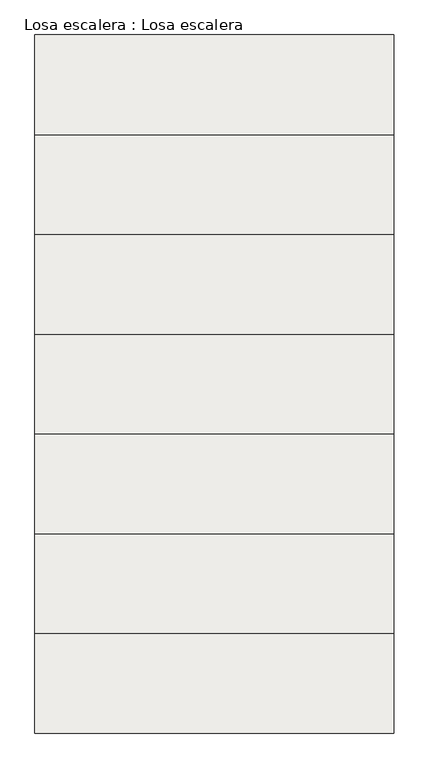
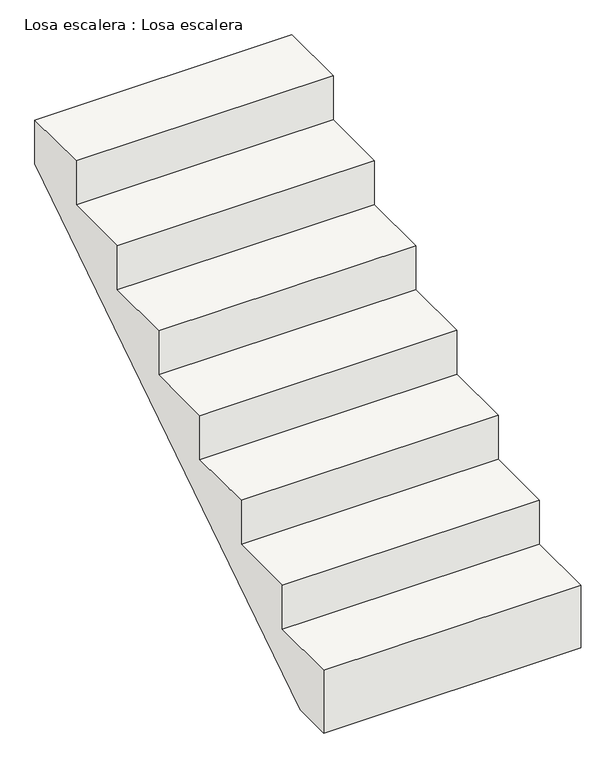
"""IFC4 building model written with IfcOpenShell, lengths in millimetres: slab geometry, Losa escalera : Losa escalera."""

from ifc_helpers import new_model, si_unit, frame, origin, place, context, project, spatial, polyline, outline, extrude, source, transform, mapped, element, save


def losa_escalera_losa_escalera_d81f02f8(model_context):
    return source(origin(), model_context, "Body", "SweptSolid", [
        extrude(outline(polyline([(7644.0656057, 1309.8801816), (5811.8108029, 120.0), (5650.1249817, 120.0), (5650.1249817, 385.0), (5935.0, 385.0), (5935.0, 570.0), (6219.8750183, 570.0), (6219.8750183, 755.0), (6504.7500366, 755.0), (6504.7500366, 940.0), (6789.6250549, 940.0), (6789.6250549, 1125.0), (7074.6250549, 1125.0), (7074.6250549, 1310.0811641), (7359.5000732, 1310.0811641), (7359.5000732, 1495.0811641), (7644.0656057, 1495.0811641), (7644.0656057, 1309.8801816)])), frame((10390.0, 0.0, 0.0), z_axis=(1.0, 0.0, 0.0), x_axis=(0.0, 1.0, 0.0)), (0.0, 0.0, 1.0), 1025.0),
    ])


if __name__ == "__main__":
    model = new_model("IFC4")
    model_context = context("Model", 3, world=origin())
    ifc_project = project(units=[si_unit("LENGTHUNIT", "METRE", prefix="MILLI")], contexts=[model_context])
    site = spatial("IfcSite", under=ifc_project)
    building = spatial("IfcBuilding", under=site)
    placement = place(None, origin())
    losa_escalera_losa_escalera_shape = losa_escalera_losa_escalera_d81f02f8(model_context)
    element("IfcSlab", 1, ObjectType="Losa escalera : Losa escalera", at=placement, inside=building, context=model_context, shape_type="MappedRepresentation", body=[
        mapped(losa_escalera_losa_escalera_shape, transform((0.0, 0.0, 0.0), x_axis=(1.0, 0.0, 0.0), y_axis=(0.0, 1.0, 0.0), z_axis=(0.0, 0.0, 1.0))),
    ])
    save(model, "model.ifc")
